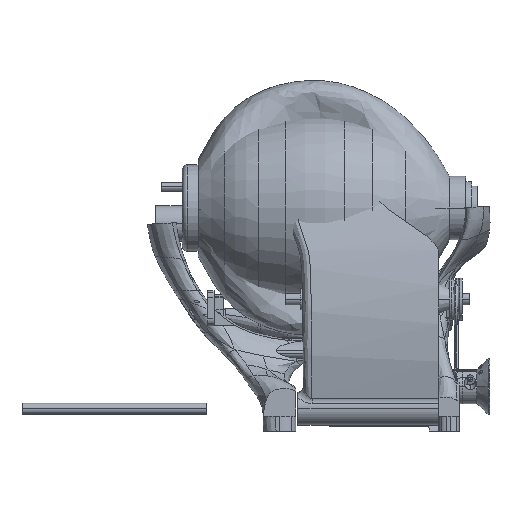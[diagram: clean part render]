
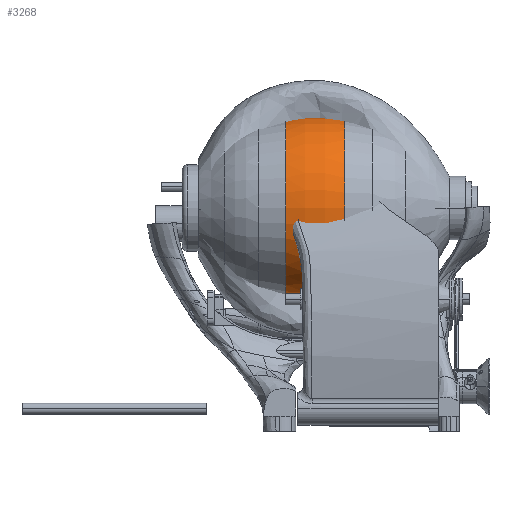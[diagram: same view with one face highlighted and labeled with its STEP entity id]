
A CAD part, front view. The second image highlights one B-rep face of the part: STEP entity #3268.
In plain terms, the highlighted toroidal (fillet/blend) face has major radius 47.891 mm and minor radius 112.425 mm.
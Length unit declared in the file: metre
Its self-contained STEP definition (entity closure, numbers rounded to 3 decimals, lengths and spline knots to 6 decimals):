
#3268=ADVANCED_FACE('1140:243',(#7861),#7862,.T.);
#7861=FACE_OUTER_BOUND('',#35671,.T.);
#7862=TOROIDAL_SURFACE('',#35672,-0.04789,0.112425);
#35671=EDGE_LOOP('',(#63672,#63673,#63674,#63675));
#35672=AXIS2_PLACEMENT_3D('',#63676,#63677,#63678);
#63672=ORIENTED_EDGE('',*,*,#80992,.F.);
#63673=ORIENTED_EDGE('',*,*,#80990,.T.);
#63674=ORIENTED_EDGE('',*,*,#80993,.F.);
#63675=ORIENTED_EDGE('',*,*,#80994,.F.);
#63676=CARTESIAN_POINT('',(0.0,0.01675,0.));
#63677=DIRECTION('',(0.0,-1.0,0.));
#63678=DIRECTION('',(0.0,0.,-1.0));
#80990=EDGE_CURVE('1140:291',#88332,#88334,#88336,.T.);
#80992=EDGE_CURVE('',#88332,#88338,#88339,.T.);
#80993=EDGE_CURVE('',#88340,#88334,#88341,.T.);
#80994=EDGE_CURVE('1140:288',#88338,#88340,#88342,.T.);
#88332=VERTEX_POINT('',#101121);
#88334=VERTEX_POINT('',#101124);
#88336=CIRCLE('',#101127,0.062603);
#88338=VERTEX_POINT('',#101129);
#88339=CIRCLE('',#101130,0.112425);
#88340=VERTEX_POINT('',#101131);
#88341=CIRCLE('',#101132,0.112425);
#88342=CIRCLE('',#101133,0.062603);
#101121=CARTESIAN_POINT('',(0.0,0.0375,-0.062603));
#101124=CARTESIAN_POINT('',(0.,0.0375,0.062603));
#101127=AXIS2_PLACEMENT_3D('',#130311,#130312,#130313);
#101129=CARTESIAN_POINT('',(0.0,-0.004,-0.062603));
#101130=AXIS2_PLACEMENT_3D('',#130314,#130315,#130316);
#101131=CARTESIAN_POINT('',(0.,-0.004,0.062603));
#101132=AXIS2_PLACEMENT_3D('',#130317,#130318,#130319);
#101133=AXIS2_PLACEMENT_3D('',#130320,#130321,#130322);
#130311=CARTESIAN_POINT('',(0.0,0.0375,0.));
#130312=DIRECTION('',(0.0,-1.0,0.));
#130313=DIRECTION('',(0.0,0.,-1.0));
#130314=CARTESIAN_POINT('',(0.,0.01675,0.04789));
#130315=DIRECTION('',(-1.0,0.,0.));
#130316=DIRECTION('',(0.,0.,-1.0));
#130317=CARTESIAN_POINT('',(0.,0.01675,-0.04789));
#130318=DIRECTION('',(-1.0,0.,0.));
#130319=DIRECTION('',(0.,0.,1.0));
#130320=CARTESIAN_POINT('',(0.0,-0.004,0.));
#130321=DIRECTION('',(0.0,-1.0,0.));
#130322=DIRECTION('',(0.0,0.,-1.0));
